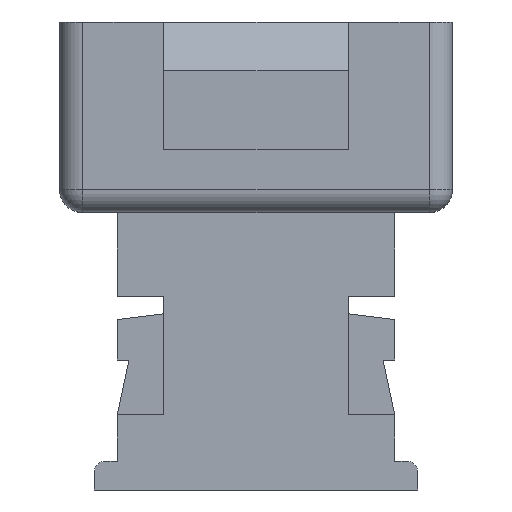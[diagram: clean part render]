
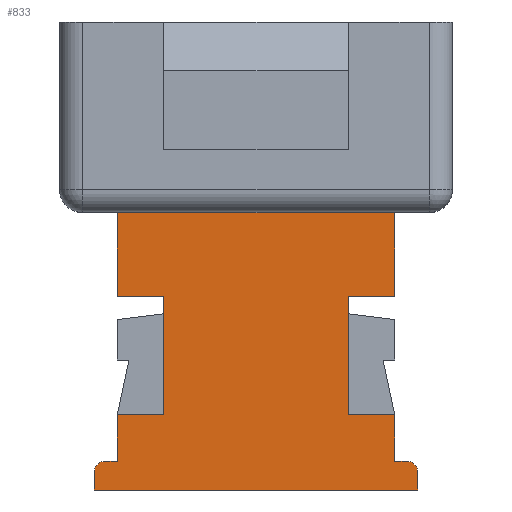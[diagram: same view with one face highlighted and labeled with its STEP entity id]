
A CAD part, left-side view. The second image highlights one B-rep face of the part: STEP entity #833.
In plain terms, the highlighted planar face has unit normal (-1, 0, 0).
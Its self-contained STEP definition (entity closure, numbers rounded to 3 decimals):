
#48=CIRCLE('',#16631,0.2);
#50=CIRCLE('',#16634,0.2);
#833=ADVANCED_FACE('\X2\96F64EF651E04F554F53\X0\',(#2424),#1639,.T.);
#1639=PLANE('',#17282);
#2424=FACE_OUTER_BOUND('',#3310,.T.);
#3310=EDGE_LOOP('',(#7342,#7343,#7344,#7345,#7346,#7347,#7348,#7349,#7350,
#7351,#7352,#7353,#7354,#7355,#7356,#7357,#7358,#7359));
#7342=ORIENTED_EDGE('',*,*,#10181,.T.);
#7343=ORIENTED_EDGE('',*,*,#9986,.T.);
#7344=ORIENTED_EDGE('',*,*,#9967,.F.);
#7345=ORIENTED_EDGE('',*,*,#9932,.F.);
#7346=ORIENTED_EDGE('',*,*,#9965,.F.);
#7347=ORIENTED_EDGE('',*,*,#9952,.F.);
#7348=ORIENTED_EDGE('',*,*,#11671,.T.);
#7349=ORIENTED_EDGE('',*,*,#11672,.F.);
#7350=ORIENTED_EDGE('',*,*,#11673,.T.);
#7351=ORIENTED_EDGE('',*,*,#10258,.T.);
#7352=ORIENTED_EDGE('',*,*,#10294,.F.);
#7353=ORIENTED_EDGE('',*,*,#9890,.F.);
#7354=ORIENTED_EDGE('',*,*,#11674,.T.);
#7355=ORIENTED_EDGE('',*,*,#11675,.T.);
#7356=ORIENTED_EDGE('',*,*,#11676,.T.);
#7357=ORIENTED_EDGE('',*,*,#10186,.T.);
#7358=ORIENTED_EDGE('',*,*,#10183,.T.);
#7359=ORIENTED_EDGE('',*,*,#9928,.F.);
#8377=VERTEX_POINT('',#21935);
#8378=VERTEX_POINT('',#21937);
#8414=VERTEX_POINT('',#22012);
#8415=VERTEX_POINT('',#22013);
#8418=VERTEX_POINT('',#22021);
#8419=VERTEX_POINT('',#22022);
#8438=VERTEX_POINT('',#22061);
#8439=VERTEX_POINT('',#22063);
#8450=VERTEX_POINT('',#22091);
#8468=VERTEX_POINT('',#22129);
#8662=VERTEX_POINT('',#22522);
#8664=VERTEX_POINT('',#22528);
#8732=VERTEX_POINT('',#22668);
#8733=VERTEX_POINT('',#22670);
#9485=VERTEX_POINT('',#25463);
#9486=VERTEX_POINT('',#25465);
#9487=VERTEX_POINT('',#25468);
#9488=VERTEX_POINT('',#25470);
#9890=EDGE_CURVE('',#8377,#8378,#12226,.T.);
#9928=EDGE_CURVE('',#8414,#8415,#48,.T.);
#9932=EDGE_CURVE('',#8418,#8419,#50,.T.);
#9952=EDGE_CURVE('',#8438,#8439,#12284,.T.);
#9965=EDGE_CURVE('',#8439,#8418,#12297,.T.);
#9967=EDGE_CURVE('',#8419,#8450,#12299,.T.);
#9986=EDGE_CURVE('',#8468,#8450,#12318,.T.);
#10181=EDGE_CURVE('',#8414,#8468,#12513,.T.);
#10183=EDGE_CURVE('',#8662,#8415,#12515,.T.);
#10186=EDGE_CURVE('',#8664,#8662,#12518,.T.);
#10258=EDGE_CURVE('',#8733,#8732,#12590,.T.);
#10294=EDGE_CURVE('',#8378,#8732,#12626,.T.);
#11671=EDGE_CURVE('',#8438,#9485,#13993,.T.);
#11672=EDGE_CURVE('',#9486,#9485,#13994,.T.);
#11673=EDGE_CURVE('',#9486,#8733,#13995,.T.);
#11674=EDGE_CURVE('',#8377,#9487,#13996,.T.);
#11675=EDGE_CURVE('',#9487,#9488,#13997,.T.);
#11676=EDGE_CURVE('',#9488,#8664,#13998,.T.);
#12226=LINE('',#21936,#14542);
#12284=LINE('',#22062,#14600);
#12297=LINE('',#22087,#14613);
#12299=LINE('',#22090,#14615);
#12318=LINE('',#22128,#14634);
#12513=LINE('',#22518,#14829);
#12515=LINE('',#22521,#14831);
#12518=LINE('',#22527,#14834);
#12590=LINE('',#22669,#14906);
#12626=LINE('',#22741,#14942);
#13993=LINE('',#25462,#16309);
#13994=LINE('',#25464,#16310);
#13995=LINE('',#25466,#16311);
#13996=LINE('',#25467,#16312);
#13997=LINE('',#25469,#16313);
#13998=LINE('',#25471,#16314);
#14542=VECTOR('',#17734,1.);
#14600=VECTOR('',#17806,1.);
#14613=VECTOR('',#17821,1.);
#14615=VECTOR('',#17825,1.);
#14634=VECTOR('',#17846,1.);
#14829=VECTOR('',#18043,1.);
#14831=VECTOR('',#18047,1.);
#14834=VECTOR('',#18052,1.);
#14906=VECTOR('',#18126,1.);
#14942=VECTOR('',#18164,1.);
#16309=VECTOR('',#20805,1.);
#16310=VECTOR('',#20806,1.);
#16311=VECTOR('',#20807,1.);
#16312=VECTOR('',#20808,1.);
#16313=VECTOR('',#20809,1.);
#16314=VECTOR('',#20810,1.);
#16631=AXIS2_PLACEMENT_3D('',#22011,#17774,#17775);
#16634=AXIS2_PLACEMENT_3D('',#22020,#17782,#17783);
#17282=AXIS2_PLACEMENT_3D('',#25472,#20811,#20812);
#17734=DIRECTION('',(0.,0.,1.));
#17774=DIRECTION('',(1.,0.,0.));
#17775=DIRECTION('',(0.,0.,-1.));
#17782=DIRECTION('',(1.,0.,0.));
#17783=DIRECTION('',(0.,0.,-1.));
#17806=DIRECTION('',(0.,0.,-1.));
#17821=DIRECTION('',(0.,-1.,0.));
#17825=DIRECTION('',(0.,0.,-1.));
#17846=DIRECTION('',(0.,-1.,0.));
#18043=DIRECTION('',(0.,0.,-1.));
#18047=DIRECTION('',(0.,1.,0.));
#18052=DIRECTION('',(0.,0.,-1.));
#18126=DIRECTION('',(0.,0.,1.));
#18164=DIRECTION('',(0.,-1.,0.));
#20805=DIRECTION('',(0.,1.,0.));
#20806=DIRECTION('',(0.,0.,-1.));
#20807=DIRECTION('',(0.,-1.,0.));
#20808=DIRECTION('',(0.,-1.,0.));
#20809=DIRECTION('',(0.,0.,-1.));
#20810=DIRECTION('',(0.,1.,0.));
#20811=DIRECTION('',(-1.,0.,0.));
#20812=DIRECTION('',(0.,0.,-1.));
#21935=CARTESIAN_POINT('',(-12.778,2.85,3.35));
#21936=CARTESIAN_POINT('',(-12.778,2.85,4.075));
#21937=CARTESIAN_POINT('',(-12.778,2.85,4.8));
#22011=CARTESIAN_POINT('',(-12.778,3.05,0.3));
#22012=CARTESIAN_POINT('',(-12.778,3.25,0.3));
#22013=CARTESIAN_POINT('',(-12.778,3.05,0.5));
#22020=CARTESIAN_POINT('',(-12.778,-2.15,0.3));
#22021=CARTESIAN_POINT('',(-12.778,-2.15,0.5));
#22022=CARTESIAN_POINT('',(-12.778,-2.35,0.3));
#22061=CARTESIAN_POINT('',(-12.778,-1.95,1.3));
#22062=CARTESIAN_POINT('',(-12.778,-1.95,0.9));
#22063=CARTESIAN_POINT('',(-12.778,-1.95,0.5));
#22087=CARTESIAN_POINT('',(-12.778,-2.15,0.5));
#22090=CARTESIAN_POINT('',(-12.778,-2.35,0.25));
#22091=CARTESIAN_POINT('',(-12.778,-2.35,0.));
#22128=CARTESIAN_POINT('',(-12.778,-0.95,0.));
#22129=CARTESIAN_POINT('',(-12.778,3.25,0.));
#22518=CARTESIAN_POINT('',(-12.778,3.25,0.25));
#22521=CARTESIAN_POINT('',(-12.778,3.05,0.5));
#22522=CARTESIAN_POINT('',(-12.778,2.85,0.5));
#22527=CARTESIAN_POINT('',(-12.778,2.85,0.9));
#22528=CARTESIAN_POINT('',(-12.778,2.85,1.3));
#22668=CARTESIAN_POINT('',(-12.778,-1.95,4.8));
#22669=CARTESIAN_POINT('',(-12.778,-1.95,4.075));
#22670=CARTESIAN_POINT('',(-12.778,-1.95,3.35));
#22741=CARTESIAN_POINT('',(-12.778,-0.75,4.8));
#25462=CARTESIAN_POINT('',(-12.778,-1.55,1.3));
#25463=CARTESIAN_POINT('',(-12.778,-1.15,1.3));
#25464=CARTESIAN_POINT('',(-12.778,-1.15,2.325));
#25465=CARTESIAN_POINT('',(-12.778,-1.15,3.35));
#25466=CARTESIAN_POINT('',(-12.778,-1.55,3.35));
#25467=CARTESIAN_POINT('',(-12.778,2.45,3.35));
#25468=CARTESIAN_POINT('',(-12.778,2.05,3.35));
#25469=CARTESIAN_POINT('',(-12.778,2.05,2.325));
#25470=CARTESIAN_POINT('',(-12.778,2.05,1.3));
#25471=CARTESIAN_POINT('',(-12.778,2.45,1.3));
#25472=CARTESIAN_POINT('',(-12.778,-2.35,0.));
